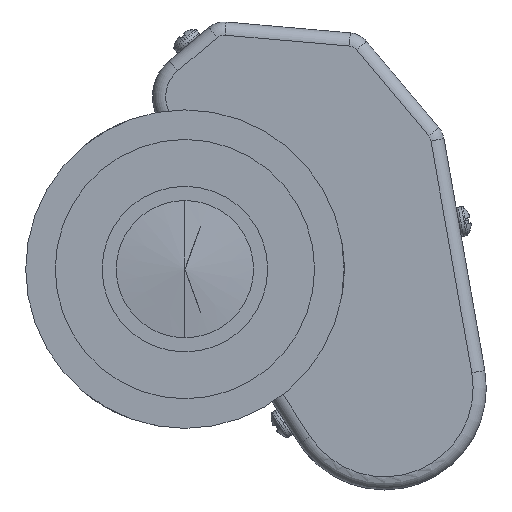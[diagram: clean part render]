
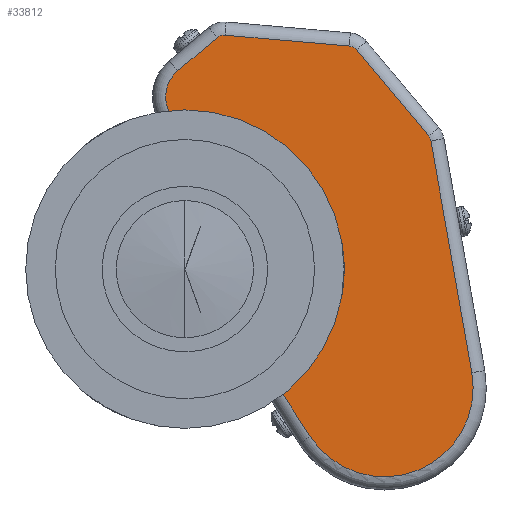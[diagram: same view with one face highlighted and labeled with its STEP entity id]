
A CAD part, left-side view. The second image highlights one B-rep face of the part: STEP entity #33812.
In plain terms, the highlighted planar face has unit normal (-1, 0, 0).
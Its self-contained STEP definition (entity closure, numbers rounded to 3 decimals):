
#1493 = AXIS2_PLACEMENT_3D ( 'NONE', #25199, #4578, #28653 ) ;
#2086 = ORIENTED_EDGE ( 'NONE', *, *, #32357, .T. ) ;
#2277 = CARTESIAN_POINT ( 'NONE',  ( 9.082, -22.136, 30.043 ) ) ;
#3926 = VERTEX_POINT ( 'NONE', #20146 ) ;
#4295 = DIRECTION ( 'NONE',  ( -1., 0., 0. ) ) ;
#4304 = ORIENTED_EDGE ( 'NONE', *, *, #41191, .T. ) ;
#4334 = AXIS2_PLACEMENT_3D ( 'NONE', #35407, #14803, #38885 ) ;
#4479 = CARTESIAN_POINT ( 'NONE',  ( 9.082, -4.369, 31.187 ) ) ;
#4578 = DIRECTION ( 'NONE',  ( -1., 0., 0. ) ) ;
#5160 = CARTESIAN_POINT ( 'NONE',  ( 9.082, -31.756, 17.042 ) ) ;
#7891 = ORIENTED_EDGE ( 'NONE', *, *, #19121, .T. ) ;
#8629 = DIRECTION ( 'NONE',  ( 0., -0.766, 0.643 ) ) ;
#9684 = VERTEX_POINT ( 'NONE', #30714 ) ;
#10304 = CARTESIAN_POINT ( 'NONE',  ( 9.082, -38.641, -13.963 ) ) ;
#10967 = DIRECTION ( 'NONE',  ( 0., 0.996, 0.087 ) ) ;
#11053 = AXIS2_PLACEMENT_3D ( 'NONE', #5160, #29247, #8629 ) ;
#11169 = VERTEX_POINT ( 'NONE', #15061 ) ;
#11813 = CARTESIAN_POINT ( 'NONE',  ( 9.082, -16.873, -22.538 ) ) ;
#12332 = CARTESIAN_POINT ( 'NONE',  ( 9.082, 0.962, 26.713 ) ) ;
#12402 = VECTOR ( 'NONE', #10967, 1000. ) ;
#13139 = CARTESIAN_POINT ( 'NONE',  ( 9.082, -26.885, -16.036 ) ) ;
#13272 = VERTEX_POINT ( 'NONE', #41035 ) ;
#13807 = CIRCLE ( 'NONE', #27767, 11.938 ) ;
#14473 = VERTEX_POINT ( 'NONE', #2277 ) ;
#14803 = DIRECTION ( 'NONE',  ( -1., 0., 0. ) ) ;
#15061 = CARTESIAN_POINT ( 'NONE',  ( 9.082, -33.132, 17.284 ) ) ;
#15296 = DIRECTION ( 'NONE',  ( 0., -0.545, -0.839 ) ) ;
#15849 = DIRECTION ( 'NONE',  ( 1., 0., 0. ) ) ;
#15893 = VERTEX_POINT ( 'NONE', #4479 ) ;
#16165 = VERTEX_POINT ( 'NONE', #10304 ) ;
#16184 = VECTOR ( 'NONE', #15296, 1000. ) ;
#16613 = DIRECTION ( 'NONE',  ( 0., -0.766, 0.643 ) ) ;
#16728 = LINE ( 'NONE', #17771, #12402 ) ;
#17019 = DIRECTION ( 'NONE',  ( -1., 0., 0. ) ) ;
#17356 = LINE ( 'NONE', #44556, #24337 ) ;
#17771 = CARTESIAN_POINT ( 'NONE',  ( 9.082, -5.389, 31.508 ) ) ;
#18041 = CARTESIAN_POINT ( 'NONE',  ( 9.082, -13.051, -16.653 ) ) ;
#18989 = CARTESIAN_POINT ( 'NONE',  ( 9.082, -23.084, 29.549 ) ) ;
#19083 = CARTESIAN_POINT ( 'NONE',  ( 9.082, -23.084, 29.549 ) ) ;
#19121 = EDGE_CURVE ( 'NONE', #15893, #9684, #36381, .T. ) ;
#19128 = VECTOR ( 'NONE', #32948, 1000. ) ;
#19443 = ORIENTED_EDGE ( 'NONE', *, *, #36360, .T. ) ;
#19558 = EDGE_LOOP ( 'NONE', ( #23151, #4304, #27293, #21583, #25777, #41587, #19443, #40095, #38208, #7891, #2086 ) ) ;
#20146 = CARTESIAN_POINT ( 'NONE',  ( 9.082, -5.389, 31.508 ) ) ;
#21530 = FACE_OUTER_BOUND ( 'NONE', #19558, .T. ) ;
#21583 = ORIENTED_EDGE ( 'NONE', *, *, #31484, .T. ) ;
#22577 = AXIS2_PLACEMENT_3D ( 'NONE', #23787, #17019, #41083 ) ;
#23151 = ORIENTED_EDGE ( 'NONE', *, *, #37861, .T. ) ;
#23221 = EDGE_CURVE ( 'NONE', #11169, #38975, #39997, .T. ) ;
#23487 = CIRCLE ( 'NONE', #33869, 21.158 ) ;
#23787 = CARTESIAN_POINT ( 'NONE',  ( 9.082, -26.885, -16.036 ) ) ;
#24337 = VECTOR ( 'NONE', #34172, 1000. ) ;
#24583 = EDGE_CURVE ( 'NONE', #38975, #39904, #26972, .T. ) ;
#24929 = CARTESIAN_POINT ( 'NONE',  ( 9.082, -22.014, 28.651 ) ) ;
#25199 = CARTESIAN_POINT ( 'NONE',  ( 9.082, -5.267, 30.117 ) ) ;
#25363 = CIRCLE ( 'NONE', #4334, 4.572 ) ;
#25690 = EDGE_CURVE ( 'NONE', #14473, #3926, #16728, .T. ) ;
#25777 = ORIENTED_EDGE ( 'NONE', *, *, #23221, .T. ) ;
#26972 = LINE ( 'NONE', #18989, #44211 ) ;
#27293 = ORIENTED_EDGE ( 'NONE', *, *, #37538, .T. ) ;
#27643 = VERTEX_POINT ( 'NONE', #18041 ) ;
#27767 = AXIS2_PLACEMENT_3D ( 'NONE', #13139, #37239, #16613 ) ;
#28371 = DIRECTION ( 'NONE',  ( 0., -0.766, 0.643 ) ) ;
#28373 = CIRCLE ( 'NONE', #37321, 1.397 ) ;
#28653 = DIRECTION ( 'NONE',  ( 0., -0.766, 0.643 ) ) ;
#29247 = DIRECTION ( 'NONE',  ( -1., 0., 0. ) ) ;
#29543 = CARTESIAN_POINT ( 'NONE',  ( 9.082, -32.826, 17.94 ) ) ;
#30692 = PLANE ( 'NONE',  #22577 ) ;
#30714 = CARTESIAN_POINT ( 'NONE',  ( 9.082, 0.962, 26.713 ) ) ;
#31484 = EDGE_CURVE ( 'NONE', #16165, #11169, #17356, .T. ) ;
#32357 = EDGE_CURVE ( 'NONE', #9684, #13272, #25363, .T. ) ;
#32948 = DIRECTION ( 'NONE',  ( 0., 0.766, -0.643 ) ) ;
#33812 = ADVANCED_FACE ( 'NONE', ( #21530 ), #30692, .T. ) ;
#33869 = AXIS2_PLACEMENT_3D ( 'NONE', #36456, #15849, #39900 ) ;
#34172 = DIRECTION ( 'NONE',  ( 0., 0.174, 0.985 ) ) ;
#34329 = EDGE_CURVE ( 'NONE', #3926, #15893, #36086, .T. ) ;
#34463 = LINE ( 'NONE', #11813, #16184 ) ;
#35407 = CARTESIAN_POINT ( 'NONE',  ( 9.082, -1.977, 23.211 ) ) ;
#36086 = CIRCLE ( 'NONE', #1493, 1.397 ) ;
#36360 = EDGE_CURVE ( 'NONE', #39904, #14473, #28373, .T. ) ;
#36381 = LINE ( 'NONE', #12332, #19128 ) ;
#36440 = CARTESIAN_POINT ( 'NONE',  ( 9.082, -16.873, -22.538 ) ) ;
#36456 = CARTESIAN_POINT ( 'NONE',  ( 9.082, 0., 0. ) ) ;
#37239 = DIRECTION ( 'NONE',  ( -1., 0., 0. ) ) ;
#37321 = AXIS2_PLACEMENT_3D ( 'NONE', #24929, #4295, #28371 ) ;
#37538 = EDGE_CURVE ( 'NONE', #44202, #16165, #13807, .T. ) ;
#37861 = EDGE_CURVE ( 'NONE', #13272, #27643, #23487, .T. ) ;
#38208 = ORIENTED_EDGE ( 'NONE', *, *, #34329, .T. ) ;
#38885 = DIRECTION ( 'NONE',  ( 0., -0.766, 0.643 ) ) ;
#38975 = VERTEX_POINT ( 'NONE', #29543 ) ;
#39587 = DIRECTION ( 'NONE',  ( 0., 0.643, 0.766 ) ) ;
#39900 = DIRECTION ( 'NONE',  ( 0., -0.766, 0.643 ) ) ;
#39904 = VERTEX_POINT ( 'NONE', #19083 ) ;
#39997 = CIRCLE ( 'NONE', #11053, 1.397 ) ;
#40095 = ORIENTED_EDGE ( 'NONE', *, *, #25690, .T. ) ;
#41035 = CARTESIAN_POINT ( 'NONE',  ( 9.082, 2.057, 21.058 ) ) ;
#41083 = DIRECTION ( 'NONE',  ( 0., -0.766, 0.643 ) ) ;
#41191 = EDGE_CURVE ( 'NONE', #27643, #44202, #34463, .T. ) ;
#41587 = ORIENTED_EDGE ( 'NONE', *, *, #24583, .T. ) ;
#44202 = VERTEX_POINT ( 'NONE', #36440 ) ;
#44211 = VECTOR ( 'NONE', #39587, 1000. ) ;
#44556 = CARTESIAN_POINT ( 'NONE',  ( 9.082, -33.132, 17.284 ) ) ;
